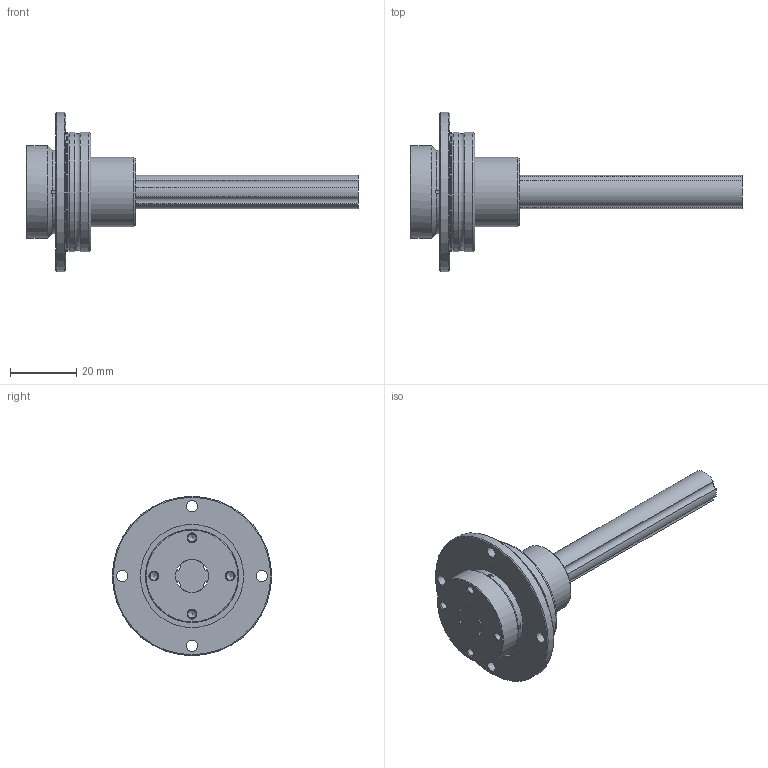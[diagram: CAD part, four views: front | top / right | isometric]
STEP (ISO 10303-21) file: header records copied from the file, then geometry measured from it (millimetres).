
FILE_DESCRIPTION(/* description */ ('STEP AP214'),/* implementation_level */ '2;1');
FILE_NAME(/* name */ 'LTR10A+100L(0_0)',/* time_stamp */ '2024-09-04T12:30:03+02:00',/* author */ ('License CC BY-ND 4.0'),/* organization */ ('CADENAS'),/* preprocessor_version */ 'ST-DEVELOPER v19.3',/* originating_system */ 'PARTsolutions',/* authorisation */ ' ');
FILE_SCHEMA (('AUTOMOTIVE_DESIGN {1 0 10303 214 3 1 1}'));
Length unit declared in the file: millimetre
Products named in the file (3): LTR10A+100L(0,0); LTR 10A100 LTRA Shaft; LTR 10A LTRA ACyl
Assembly tree (3 placements, depth 2):
  LTR10A+100L(0,0)
    LTR 10A100 LTRA Shaft
    LTR 10A LTRA ACyl  x2
Bounding box: 100 x 48 x 48 mm (x, y, z)
Volume: 46265.4 mm3; surface area: 19991.5 mm2
Topology: 3 solids, 3 shells, 104 faces, 282 edges, 182 vertices
Faces by surface type: cylinder 48, cone 30, plane 20, torus 6
Full cylindrical faces by diameter (mm): 1 x2, 2.459 x8, 3.4 x8, 10 x2, 21 x2, 25.2 x2, 25.3 x2, 28 x2, 31.111 x2, 32.4 x2, 35.6 x2, 36 x4, 48 x2
Entity records: 1576 total; most frequent: DIRECTION 276, CARTESIAN_POINT 271, ORIENTED_EDGE 188, AXIS2_PLACEMENT_3D 130, FACE_BOUND 116, EDGE_LOOP 112, EDGE_CURVE 94, VERTEX_POINT 82
